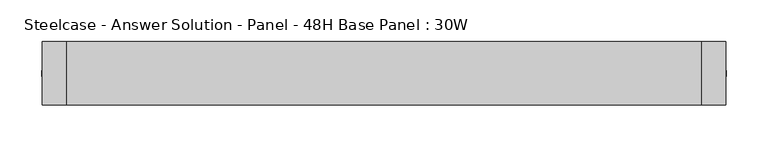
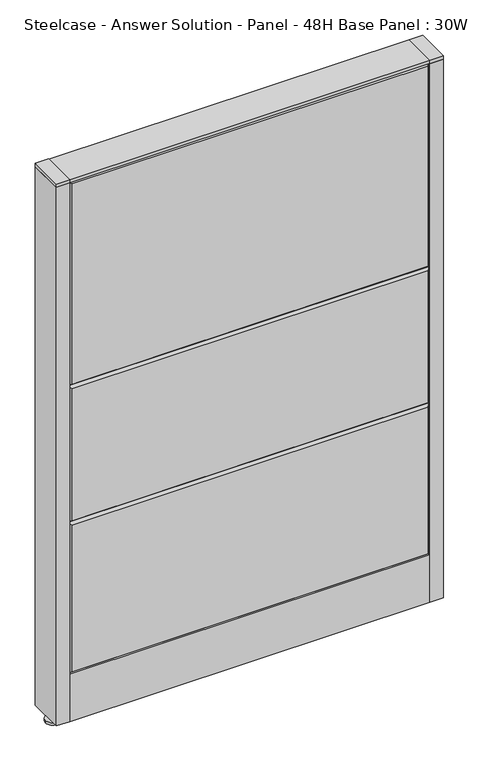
"""IFC4 building model written with IfcOpenShell, lengths in millimetres: furniture geometry, Steelcase - Answer Solution - Panel - 48H Base Panel : 30W."""

from ifc_helpers import new_model, si_unit, point, frame, frame_2d, origin, place, context, project, spatial, polyline, circle_curve, trimmed, segment, composite_curve, outline, extrude, faceted_brep, source, transform, mapped, element, save


def steelcase_answer_solution_panel_48h_base_panel_30w_fddac4d1(model_context):
    return source(origin(), model_context, "Body", "SolidModel", [
        extrude(outline(composite_curve([segment(trimmed(circle_curve(frame_2d((395.224, 0.0320214)), 5.08), [point((400.304, 0.0320214))], [point((390.144, 0.0320214))], False, "CARTESIAN"), True, "CONTINUOUS"), segment(trimmed(circle_curve(frame_2d((395.224, 0.0320214)), 5.08), [point((390.144, 0.0320214))], [point((400.304, 0.0320214))], False, "CARTESIAN"), True, "CONTINUOUS")], self_intersect=False)), frame((0.0, 0.0, 5.0799671), z_axis=(0.0, 0.0, 1.0), x_axis=(1.0, 0.0, 0.0)), (0.0, 0.0, 1.0), 10.414),
        extrude(outline(composite_curve([segment(trimmed(circle_curve(frame_2d((395.224, 0.0320214)), 15.24), [point((410.464, 0.0320214))], [point((379.984, 0.0320214))], False, "CARTESIAN"), True, "CONTINUOUS"), segment(trimmed(circle_curve(frame_2d((395.224, 0.0320214)), 15.24), [point((379.984, 0.0320214))], [point((410.464, 0.0320214))], False, "CARTESIAN"), True, "CONTINUOUS")], self_intersect=False)), frame((0.0, 0.0, -3.29e-05), z_axis=(0.0, 0.0, 1.0), x_axis=(1.0, 0.0, 0.0)), (0.0, 0.0, 1.0), 5.08),
        extrude(outline(polyline([(409.575, 38.1320408), (409.575, -38.0679592), (381.0, -38.0679592), (381.0, 38.1320408), (409.575, 38.1320408)])), frame((0.0, 0.0, 1218.2348), z_axis=(0.0, 0.0, 1.0), x_axis=(1.0, 0.0, 0.0)), (0.0, 0.0, 1.0), 7.3151671),
        extrude(outline(polyline([(409.575, 38.1320408), (409.575, -38.0679592), (381.0, -38.0679592), (381.0, 38.1320408), (409.575, 38.1320408)])), frame((0.0, 0.0, 15.4939671), z_axis=(0.0, 0.0, 1.0), x_axis=(1.0, 0.0, 0.0)), (0.0, 0.0, 1.0), 1202.7408329),
        extrude(outline(composite_curve([segment(trimmed(circle_curve(frame_2d((-395.224, 0.0320214)), 5.08), [point((-400.304, 0.0320214))], [point((-390.144, 0.0320214))], False, "CARTESIAN"), True, "CONTINUOUS"), segment(trimmed(circle_curve(frame_2d((-395.224, 0.0320214)), 5.08), [point((-390.144, 0.0320214))], [point((-400.304, 0.0320214))], False, "CARTESIAN"), True, "CONTINUOUS")], self_intersect=False)), frame((0.0, 0.0, 5.0799671), z_axis=(0.0, 0.0, 1.0), x_axis=(1.0, 0.0, 0.0)), (0.0, 0.0, 1.0), 10.414),
        extrude(outline(composite_curve([segment(trimmed(circle_curve(frame_2d((-395.224, 0.0320214)), 15.24), [point((-410.464, 0.0320214))], [point((-379.984, 0.0320214))], False, "CARTESIAN"), True, "CONTINUOUS"), segment(trimmed(circle_curve(frame_2d((-395.224, 0.0320214)), 15.24), [point((-379.984, 0.0320214))], [point((-410.464, 0.0320214))], False, "CARTESIAN"), True, "CONTINUOUS")], self_intersect=False)), frame((0.0, 0.0, -3.29e-05), z_axis=(0.0, 0.0, 1.0), x_axis=(1.0, 0.0, 0.0)), (0.0, 0.0, 1.0), 5.08),
        extrude(outline(polyline([(-409.575, 38.1320408), (-381.0, 38.1320408), (-381.0, -38.0679592), (-409.575, -38.0679592), (-409.575, 38.1320408)])), frame((0.0, 0.0, 1218.2348), z_axis=(0.0, 0.0, 1.0), x_axis=(1.0, 0.0, 0.0)), (0.0, 0.0, 1.0), 7.3151671),
        extrude(outline(polyline([(-409.575, 38.1320408), (-381.0, 38.1320408), (-381.0, -38.0679592), (-409.575, -38.0679592), (-409.575, 38.1320408)])), frame((0.0, 0.0, 15.4939671), z_axis=(0.0, 0.0, 1.0), x_axis=(1.0, 0.0, 0.0)), (0.0, 0.0, 1.0), 1202.7408329),
        faceted_brep([(-376.174, 38.1635011, 1214.374), (376.174, 38.1635011, 1214.374), (376.174, 38.1635011, 766.826), (-376.174, 38.1635011, 766.826), (-381.0, 33.3375011, 1219.2), (-381.0, 33.3375011, 762.0), (381.0, 33.3375011, 762.0), (381.0, 33.3375011, 1219.2)], [[[0, 1, 2, 3]], [[4, 5, 6, 7]], [[4, 7, 1, 0]], [[7, 6, 2, 1]], [[6, 5, 3, 2]], [[5, 4, 0, 3]]]),
        faceted_brep([(-376.174, 38.1635011, 757.174), (376.174, 38.1635011, 757.174), (376.174, 38.1635011, 462.026), (-376.174, 38.1635011, 462.026), (-381.0, 33.3375011, 762.0), (-381.0, 33.3375011, 457.2), (381.0, 33.3375011, 457.2), (381.0, 33.3375011, 762.0)], [[[0, 1, 2, 3]], [[4, 5, 6, 7]], [[4, 7, 1, 0]], [[7, 6, 2, 1]], [[6, 5, 3, 2]], [[5, 4, 0, 3]]]),
        faceted_brep([(-376.174, 38.1635011, 452.374), (376.174, 38.1635011, 452.374), (376.174, 38.1635011, 125.476), (-376.174, 38.1635011, 125.476), (-381.0, 33.3375011, 457.2), (-381.0, 33.3375011, 120.65), (381.0, 33.3375011, 120.65), (381.0, 33.3375011, 457.2)], [[[0, 1, 2, 3]], [[4, 5, 6, 7]], [[4, 7, 1, 0]], [[7, 6, 2, 1]], [[6, 5, 3, 2]], [[5, 4, 0, 3]]]),
        faceted_brep([(376.174, -38.1635011, 1214.374), (-376.174, -38.1635011, 1214.374), (-376.174, -38.1635011, 766.826), (376.174, -38.1635011, 766.826), (381.0, -33.3375011, 1219.2), (381.0, -33.3375011, 762.0), (-381.0, -33.3375011, 762.0), (-381.0, -33.3375011, 1219.2)], [[[0, 1, 2, 3]], [[4, 5, 6, 7]], [[4, 7, 1, 0]], [[7, 6, 2, 1]], [[6, 5, 3, 2]], [[5, 4, 0, 3]]]),
        faceted_brep([(376.174, -38.1635011, 757.174), (-376.174, -38.1635011, 757.174), (-376.174, -38.1635011, 462.026), (376.174, -38.1635011, 462.026), (381.0, -33.3375011, 762.0), (381.0, -33.3375011, 457.2), (-381.0, -33.3375011, 457.2), (-381.0, -33.3375011, 762.0)], [[[0, 1, 2, 3]], [[4, 5, 6, 7]], [[4, 7, 1, 0]], [[7, 6, 2, 1]], [[6, 5, 3, 2]], [[5, 4, 0, 3]]]),
        faceted_brep([(376.174, -38.1635011, 452.374), (-376.174, -38.1635011, 452.374), (-376.174, -38.1635011, 125.476), (376.174, -38.1635011, 125.476), (381.0, -33.3375011, 457.2), (381.0, -33.3375011, 120.65), (-381.0, -33.3375011, 120.65), (-381.0, -33.3375011, 457.2)], [[[0, 1, 2, 3]], [[4, 5, 6, 7]], [[4, 7, 1, 0]], [[7, 6, 2, 1]], [[6, 5, 3, 2]], [[5, 4, 0, 3]]]),
        extrude(outline(polyline([(381.0, 38.1000194), (381.0, -38.1000194), (-381.0, -38.1000194), (-381.0, 38.1000194), (381.0, 38.1000194)])), frame((0.0, 0.0, 1219.2), z_axis=(0.0, 0.0, 1.0), x_axis=(1.0, 0.0, 0.0)), (0.0, 0.0, 1.0), 6.35),
        extrude(outline(polyline([(25.4000011, 119.8575157), (25.4000011, 120.65), (38.1000194, 120.65), (38.1000194, 15.494), (37.3075215, 15.494), (37.3075215, 119.8575157), (25.4000011, 119.8575157)])), frame((-381.0, 0.0, 0.0), z_axis=(1.0, 0.0, 0.0), x_axis=(0.0, 1.0, 0.0)), (0.0, 0.0, 1.0), 762.0),
        extrude(outline(polyline([(-25.4000011, 119.8575157), (-37.3075215, 119.8575157), (-37.3075215, 15.494), (-38.1000194, 15.494), (-38.1000194, 120.65), (-25.4000011, 120.65), (-25.4000011, 119.8575157)])), frame((-381.0, 0.0, 0.0), z_axis=(1.0, 0.0, 0.0), x_axis=(0.0, 1.0, 0.0)), (0.0, 0.0, 1.0), 762.0),
    ])


if __name__ == "__main__":
    model = new_model("IFC4")
    model_context = context("Model", 3, world=origin())
    ifc_project = project(units=[si_unit("LENGTHUNIT", "METRE", prefix="MILLI")], contexts=[model_context])
    site = spatial("IfcSite", under=ifc_project)
    building = spatial("IfcBuilding", under=site)
    placement = place(None, origin())
    steelcase_answer_solution_panel_48h_base_panel_30w_shape = steelcase_answer_solution_panel_48h_base_panel_30w_fddac4d1(model_context)
    element("IfcFurniture", 1, ObjectType="Steelcase - Answer Solution - Panel - 48H Base Panel : 30W", at=placement, inside=building, context=model_context, shape_type="MappedRepresentation", body=[
        mapped(steelcase_answer_solution_panel_48h_base_panel_30w_shape, transform((0.0, 0.0, 0.0), x_axis=(1.0, 0.0, 0.0), y_axis=(0.0, 1.0, 0.0), z_axis=(0.0, 0.0, 1.0))),
    ])
    save(model, "model.ifc")
